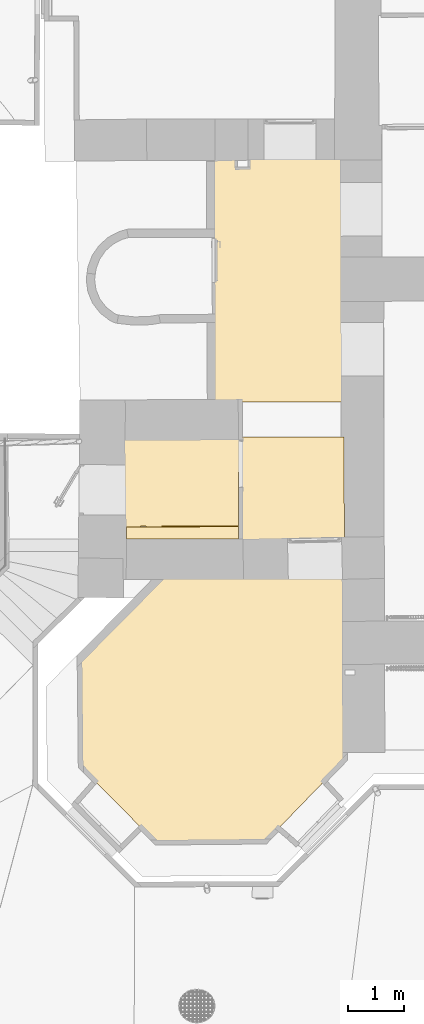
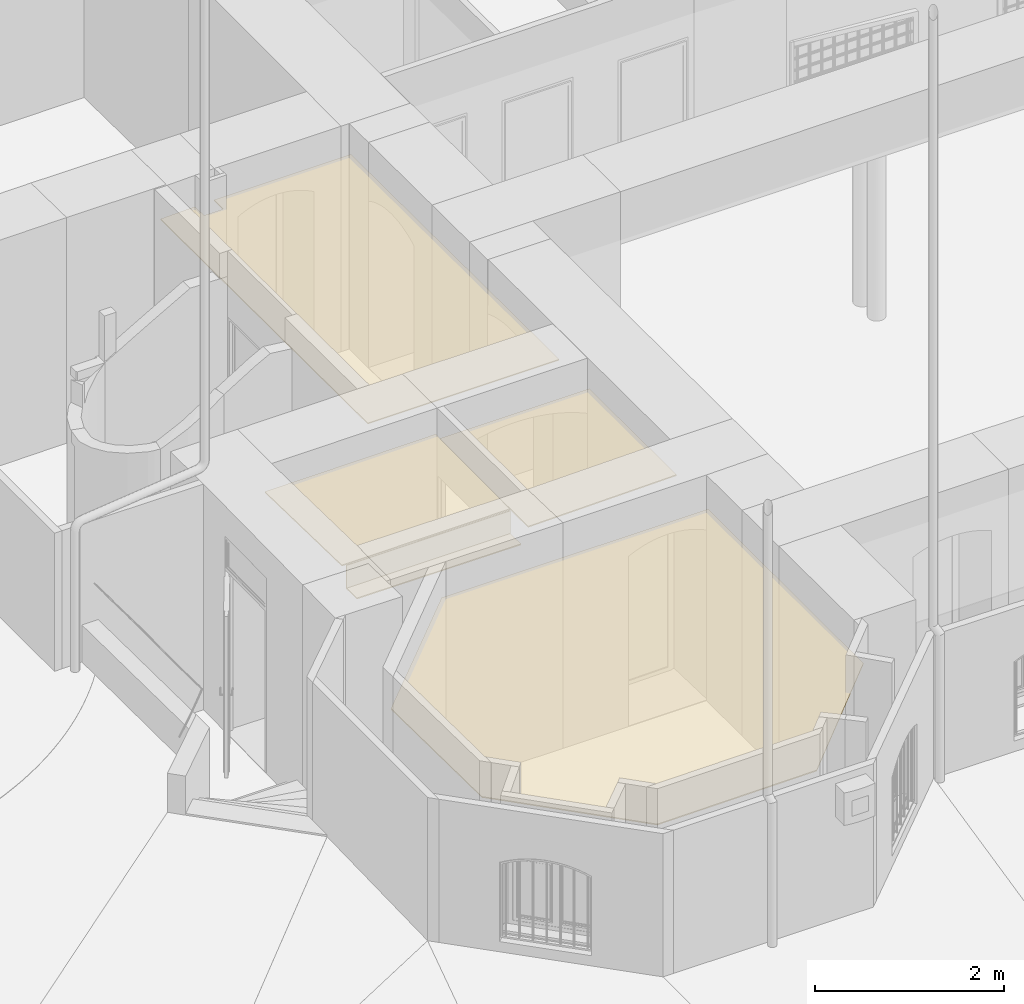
# One storey, part 118 of 133: 4 coverings.
"""IFC2X3 building model written with IfcOpenShell, lengths in centimetres."""

from ifc_helpers import new_model, entity, si_unit, converted_unit, direction, frame, origin, origin_with_axes, place, context, subcontext, project, spatial, faceted_brep, material, element, save


model = new_model("IFC2X3")

# Units and contexts
model_context = context("Model", 3, precision=0.0001, world=origin(), true_north=direction((0.225632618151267, 0.974212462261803, 0.0)))
body_context = subcontext(model_context, "Body", "Model", "MODEL_VIEW")
ifc_project = project(units=[si_unit("LENGTHUNIT", "METRE", prefix="CENTI"), si_unit("AREAUNIT", "SQUARE_METRE", prefix="CENTI"), si_unit("VOLUMEUNIT", "CUBIC_METRE", prefix="CENTI"), converted_unit("PLANEANGLEUNIT", "DEGREE", entity("IfcRatioMeasure", 0.0174532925), si_unit("PLANEANGLEUNIT", "RADIAN"), dimensions=[0, 0, 0, 0, 0, 0, 0])], contexts=[model_context])

# Site, building, storey
site_placement = place(None, origin_with_axes())
site = spatial("IfcSite", under=ifc_project, at=site_placement, Name="Default Site", CompositionType="ELEMENT")
building_placement = place(site_placement, origin_with_axes())
building = spatial("IfcBuilding", under=site, at=building_placement, Name="Default Building", CompositionType="ELEMENT")
storey_placement = place(building_placement, frame((0.0, 0.0, -291.400371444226), z_axis=(0.0, 0.0, 1.0), x_axis=(1.0, 0.0, 0.0)))
storey = spatial("IfcBuildingStorey", under=building, at=storey_placement, Name="Rez-de-Jardin", CompositionType="ELEMENT", Elevation=-291.400371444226)

# Coverings
ifc_material = material(Name="Blanc")
covering_1_placement = place(storey_placement, frame((-1038.35817948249, -597.058318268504, 241.200371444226), z_axis=(0.0, 0.0, 1.0), x_axis=(1.0, 0.0, 0.0)))
element("IfcCovering", 1, at=covering_1_placement, inside=storey, material=ifc_material, Name="Faux-plafond 73358", PredefinedType="CEILING", context=body_context, shape_type="Brep", body=[
    faceted_brep([(-148.653348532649, -150.278927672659, 1.39999945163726), (-146.619733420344, -339.208580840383, 1.39999945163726), (-11.3991104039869, -475.962139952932, 1.39999945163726), (184.527460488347, -474.043061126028, 1.39999945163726), (325.930897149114, -327.940060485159, 1.39999945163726), (325.782076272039, 0.496361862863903, 1.39999945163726), (-3.20348462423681e-05, 2.20648902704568e-05, 1.39999945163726), (-3.20348462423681e-05, 2.20648902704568e-05, 2.57492064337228e-06), (325.782076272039, 0.496361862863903, 2.57492064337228e-06), (325.930897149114, -327.940060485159, 2.57492064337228e-06), (184.527460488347, -474.043061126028, 2.57492064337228e-06), (-11.3991104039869, -475.962139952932, 2.57492064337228e-06), (-146.619733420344, -339.208580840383, 2.57492064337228e-06), (-148.653348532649, -150.278927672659, 2.57492064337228e-06), (-146.619720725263, -339.208580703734, 2.57492064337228e-06), (-146.619720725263, -339.208580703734, 1.39999945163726), (-11.3991241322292, -475.962153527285, 2.57492064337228e-06), (-11.3991241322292, -475.962153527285, 1.39999945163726), (184.527460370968, -474.04304914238, 2.57492064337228e-06), (184.527460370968, -474.04304914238, 1.39999945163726), (325.930862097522, -327.940026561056, 2.57492064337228e-06), (325.930862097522, -327.940026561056, 1.39999945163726), (325.782105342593, 0.496361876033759, 2.57492064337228e-06), (325.782105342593, 0.496361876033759, 1.39999945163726), (-3.20227196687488e-05, 1.41055096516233e-05, 2.57492064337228e-06), (-3.20227196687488e-05, 1.41055096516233e-05, 1.39999945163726), (-148.653388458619, -150.278888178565, 2.57492064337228e-06), (-148.653388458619, -150.278888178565, 1.39999945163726)], [[[0, 1, 2, 3, 4, 5, 6]], [[7, 8, 9, 10, 11, 12, 13]], [[13, 14, 15, 0]], [[12, 16, 17, 1]], [[11, 18, 19, 2]], [[10, 20, 21, 3]], [[9, 22, 23, 4]], [[8, 24, 25, 5]], [[7, 26, 27, 6]]]),
])
covering_2_placement = place(storey_placement, frame((-1110.81426584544, -348.444594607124, 253.000371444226), z_axis=(0.0, 0.0, 1.0), x_axis=(1.0, 0.0, 0.0)))
element("IfcCovering", 2, at=covering_2_placement, inside=storey, material=ifc_material, Name="Faux-plafond 73359", PredefinedType="CEILING", context=body_context, shape_type="Brep", body=[
    faceted_brep([(8.20243799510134, -180.827341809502, -29.6000007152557), (208.35521662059, -181.117831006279, -29.6000007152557), (208.354262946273, -157.465277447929, -29.6000007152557), (7.85835230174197, -158.201275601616, -29.6000007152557), (7.85835230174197, -158.201275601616, -31.0000005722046), (208.354262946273, -157.465277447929, -31.0000005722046), (208.35521662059, -181.117831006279, -31.0000005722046), (8.20243799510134, -180.827341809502, -31.0000005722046), (208.355216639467, -181.117817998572, -31.0000005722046), (208.355216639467, -181.117817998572, -29.6000007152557), (208.354270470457, -157.465277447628, -31.0000005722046), (208.354270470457, -157.465277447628, -29.6000007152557), (7.85835228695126, -158.201271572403, -31.0000005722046), (7.85835228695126, -158.201271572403, -29.6000007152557), (8.20252017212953, -180.827340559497, -31.0000005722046), (8.20252017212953, -180.827340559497, -29.6000007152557)], [[[0, 1, 2, 3]], [[4, 5, 6, 7]], [[7, 8, 9, 0]], [[6, 10, 11, 1]], [[5, 12, 13, 2]], [[4, 14, 15, 3]]]),
    faceted_brep([(2.79863321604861, -158.176003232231, 1.10393729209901), (208.352260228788, -157.465277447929, 1.39296718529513), (209.345988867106, 1.19592116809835, 1.39436447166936), (-0.00192678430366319, -1.02665330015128e-05, 1.0999994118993), (-1.9432877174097e-05, -1.02665330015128e-05, -0.299999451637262), (209.347991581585, 1.19592116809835, -0.00563425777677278), (208.354262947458, -157.465277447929, -0.00703154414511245), (2.80063593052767, -158.176003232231, -0.296061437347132), (2.80063593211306, -158.176003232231, -0.296062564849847), (208.354263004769, -157.465294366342, -0.00703070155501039), (208.352260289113, -157.465294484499, 1.39296617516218), (2.79863321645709, -158.176003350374, 1.10393729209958), (208.354262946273, -157.465277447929, -0.00703070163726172), (209.347950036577, 1.19592142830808, -0.00563601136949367), (209.345981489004, 1.19592121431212, 1.39436389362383), (208.35229440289, -157.465277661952, 1.39296622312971), (209.347991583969, 1.19592116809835, -0.00563595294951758), (-1.95469955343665e-05, 9.7102795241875e-06, -0.299999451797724), (-0.00192689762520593, 1.00598365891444e-05, 1.09999742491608), (209.345988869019, 1.19592097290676, 1.3943639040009), (2.80061908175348, -158.176003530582, -0.296062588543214), (2.79865052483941, -158.176002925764, 1.10393731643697), (-0.0019879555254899, -1.13496723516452e-05, 1.09999733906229)], [[[0, 1, 2, 3]], [[4, 5, 6, 7]], [[8, 9, 10, 11]], [[12, 13, 14, 15]], [[16, 17, 18, 19]], [[4, 20, 21, 22]]]),
    faceted_brep([(208.358840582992, -158.715258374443, -31.0000005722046), (7.86292993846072, -159.45125652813, -31.0000005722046), (7.85835230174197, -158.201275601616, -31.0000005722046), (208.354262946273, -157.465277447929, -31.0000005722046), (7.86292993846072, -159.45125652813, -0.299999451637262), (7.85834142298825, -158.20127564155, -0.299999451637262), (7.85834142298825, -158.20127564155, -31.0000005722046), (208.358840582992, -158.715258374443, -0.299999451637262), (208.354262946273, -157.465277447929, -0.299999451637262), (7.85835230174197, -158.201275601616, -0.299999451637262), (208.354252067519, -157.465277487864, -31.0000005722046), (208.354252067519, -157.465277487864, -0.299999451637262), (7.85835228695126, -158.201271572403, -31.0000005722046), (7.85835228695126, -158.201271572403, -0.299999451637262), (7.86292992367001, -159.451252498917, -0.299999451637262), (7.86292992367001, -159.451252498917, -31.0000005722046)], [[[0, 1, 2, 3]], [[1, 4, 5, 6]], [[4, 7, 8, 9]], [[7, 0, 10, 11]], [[3, 12, 13, 8]], [[7, 14, 15, 0]]]),
])
covering_3_placement = place(storey_placement, frame((-896.65883349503, -534.57481954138, 245.600371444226), z_axis=(0.0, 0.0, 1.0), x_axis=(1.0, 0.0, 0.0)))
element("IfcCovering", 3, at=covering_3_placement, inside=storey, material=ifc_material, Name="Faux-plafond 73360", PredefinedType="CEILING", context=body_context, shape_type="Brep", body=[
    faceted_brep([(3.1462559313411e-05, -2.291162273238e-05, 1.39999942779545), (183.855612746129, 4.10192105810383, 1.39999942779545), (183.055384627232, 187.748051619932, 1.39999942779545), (-0.00750256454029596, 187.391258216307, 1.39999942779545), (-0.00750256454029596, 187.391258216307, -4.29153401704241e-07), (183.055384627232, 187.748051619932, -4.29153401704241e-07), (183.855612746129, 4.10192105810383, -4.29153401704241e-07), (3.1462559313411e-05, -2.291162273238e-05, -4.29153401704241e-07), (183.855613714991, 4.10187763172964, -4.29153401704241e-07), (183.855613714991, 4.10187763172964, 1.39999942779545), (183.055416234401, 187.748051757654, -4.29153401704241e-07), (183.055416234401, 187.748051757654, 1.39999942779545), (-0.00750259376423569, 187.391273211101, -4.29153401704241e-07), (-0.00750259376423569, 187.391273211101, 1.39999942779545), (-6.53308163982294e-06, -2.29131426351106e-05, -4.29153401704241e-07), (-6.53308163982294e-06, -2.29131426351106e-05, 1.39999942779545)], [[[0, 1, 2, 3]], [[4, 5, 6, 7]], [[7, 8, 9, 0]], [[6, 10, 11, 1]], [[5, 12, 13, 2]], [[4, 14, 15, 3]]]),
])
covering_4_placement = place(storey_placement, frame((-949.694397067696, 151.234859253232, 245.500371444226), z_axis=(0.0, 0.0, 1.0), x_axis=(1.0, 0.0, 0.0)))
element("IfcCovering", 4, at=covering_4_placement, inside=storey, material=ifc_material, Name="Faux-plafond 73361", PredefinedType="CEILING", context=body_context, shape_type="Brep", body=[
    faceted_brep([(1.52898035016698, -435.731524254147, 1.40000071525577), (235.838319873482, -435.057348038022, 1.40000071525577), (234.071733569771, 2.68958208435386, 1.40000071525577), (66.5405770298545, 2.13839409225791, 1.40000071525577), (66.6883011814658, -17.2340452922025, 1.40000071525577), (43.2117959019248, -17.4130976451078, 1.40000071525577), (42.4797554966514, 1.46506426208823, 1.40000071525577), (-4.56813271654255e-05, 5.93536704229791e-06, 1.40000071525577), (-4.56813271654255e-05, 5.93536704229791e-06, 8.58306919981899e-07), (42.4797554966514, 1.46506426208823, 8.58306919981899e-07), (43.2117959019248, -17.4130976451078, 8.58306919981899e-07), (66.6883011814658, -17.2340452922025, 8.58306919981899e-07), (66.5405770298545, 2.13839409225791, 8.58306919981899e-07), (234.071733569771, 2.68958208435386, 8.58306919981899e-07), (235.838319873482, -435.057348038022, 8.58306919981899e-07), (1.52898035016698, -435.731524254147, 8.58306919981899e-07), (235.838319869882, -435.057346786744, 8.58306919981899e-07), (235.838319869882, -435.057346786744, 1.40000071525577), (234.071748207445, 2.68958214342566, 8.58306919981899e-07), (234.071748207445, 2.68958214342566, 1.40000071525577), (66.5405770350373, 2.13839251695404, 8.58306919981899e-07), (66.5405770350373, 2.13839251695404, 1.40000071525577), (66.6883221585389, -17.2340451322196, 8.58306919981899e-07), (66.6883221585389, -17.2340451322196, 1.40000071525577), (43.2117958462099, -17.4130903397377, 8.58306919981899e-07), (43.2117958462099, -17.4130903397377, 1.40000071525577), (42.4797991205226, 1.46506595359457, 8.58306919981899e-07), (42.4797991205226, 1.46506595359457, 1.40000071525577), (-4.53071856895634e-05, -4.91289571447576e-06, 8.58306919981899e-07), (-4.53071856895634e-05, -4.91289571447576e-06, 1.40000071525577), (1.52896956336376, -435.731524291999, 8.58306919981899e-07), (1.52896956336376, -435.731524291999, 1.40000071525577)], [[[0, 1, 2, 3, 4, 5, 6, 7]], [[8, 9, 10, 11, 12, 13, 14, 15]], [[15, 16, 17, 0]], [[14, 18, 19, 1]], [[13, 20, 21, 2]], [[12, 22, 23, 3]], [[11, 24, 25, 4]], [[10, 26, 27, 5]], [[9, 28, 29, 6]], [[8, 30, 31, 7]]]),
])

save(model, "model.ifc")
